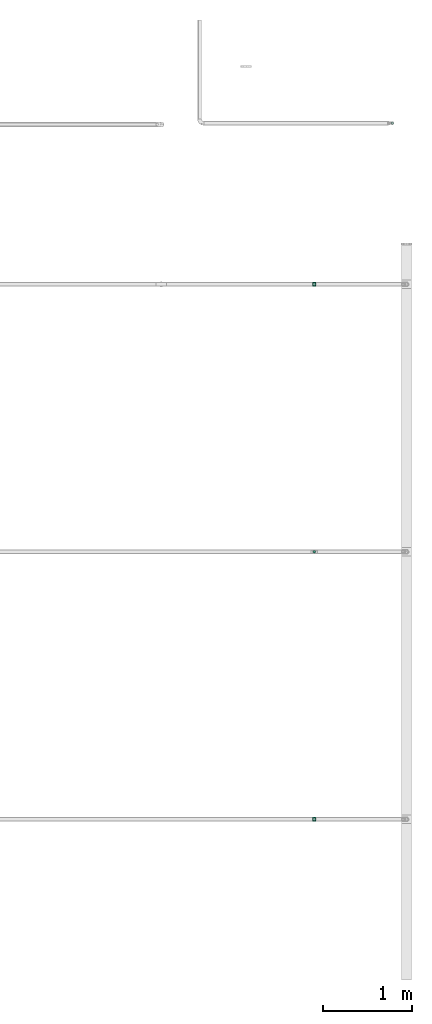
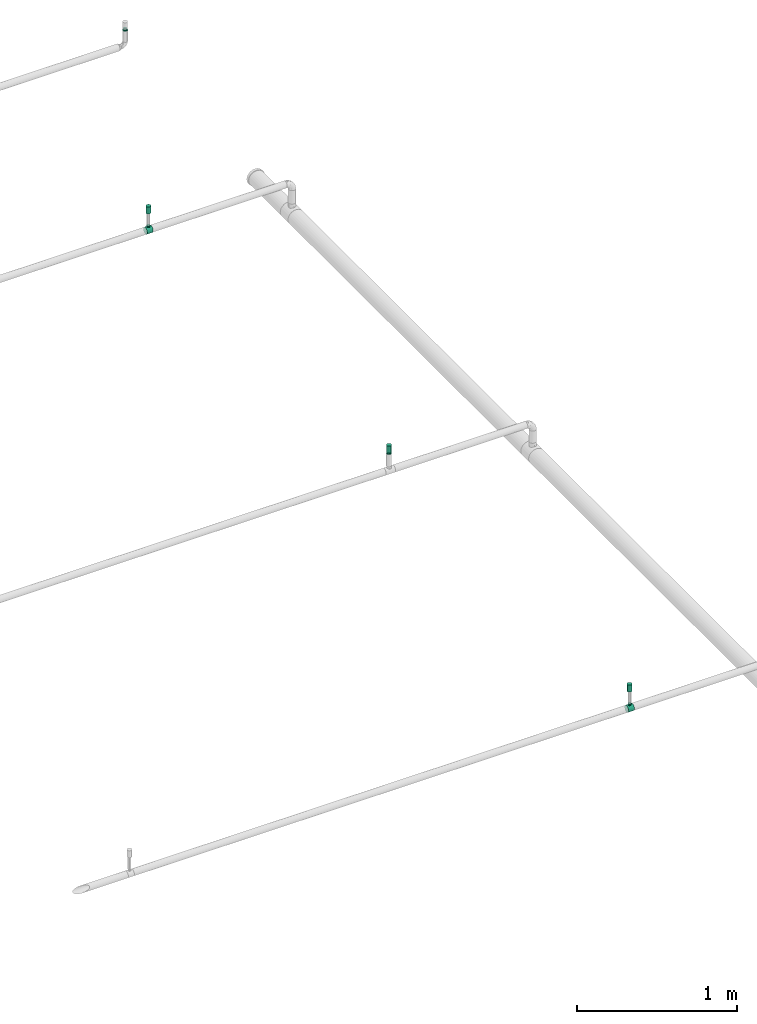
# One storey, part 11 of 14: 4 flow fittings, 3 flow terminals.
"""IFC2X3 building model written with IfcOpenShell, lengths in millimetres."""

from ifc_helpers import new_model, entity, si_unit, converted_unit, derived_unit, direction, frame, origin_with_axes, place, context, subcontext, project, spatial, open_shell, surface_model, source, transform, mapped, type_object, element, save


model = new_model("IFC2X3")

# Units and contexts
model_context = context("Model", 3, precision=0.01, world=frame((0.0, 4.29681676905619e-09, 0.0)), true_north=direction((4.01073788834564e-13, 1.0)))
plan_context = context("Plan", 3, precision=0.01, world=frame((0.0, 4.29681676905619e-09, 0.0)), true_north=direction((4.01073788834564e-13, 1.0)))
body_context = subcontext(model_context, "Body", "Model", "MODEL_VIEW")
ifc_project = project(units=[converted_unit("PLANEANGLEUNIT", "DEGREE", entity("IfcPositiveLengthMeasure", 0.0174532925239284), si_unit("PLANEANGLEUNIT", "RADIAN"), dimensions=[0, 0, 0, 0, 0, 0, 0]), si_unit("AREAUNIT", "SQUARE_METRE"), si_unit("LENGTHUNIT", "METRE", prefix="MILLI"), si_unit("MASSUNIT", "GRAM", prefix="KILO"), si_unit("POWERUNIT", "WATT"), si_unit("PRESSUREUNIT", "PASCAL"), si_unit("FORCEUNIT", "NEWTON", prefix="KILO"), si_unit("ELECTRICVOLTAGEUNIT", "VOLT"), si_unit("ELECTRICCURRENTUNIT", "AMPERE"), si_unit("THERMODYNAMICTEMPERATUREUNIT", "DEGREE_CELSIUS"), si_unit("TIMEUNIT", "SECOND"), si_unit("VOLUMEUNIT", "CUBIC_METRE"), derived_unit("LINEARVELOCITYUNIT", [(si_unit("LENGTHUNIT", "METRE"), 1), (si_unit("TIMEUNIT", "SECOND"), -1)]), derived_unit("VOLUMETRICFLOWRATEUNIT", [(si_unit("VOLUMEUNIT", "CUBIC_METRE"), 1), (si_unit("TIMEUNIT", "SECOND"), -1)]), derived_unit("THERMALTRANSMITTANCEUNIT", [(si_unit("POWERUNIT", "WATT"), 1), (si_unit("THERMODYNAMICTEMPERATUREUNIT", "KELVIN"), -1), (si_unit("AREAUNIT", "SQUARE_METRE"), -1)]), derived_unit("SOUNDPRESSUREUNIT", [(si_unit("PRESSUREUNIT", "PASCAL"), 1)])], contexts=[model_context, plan_context])

# Site, building, storey
site_placement = place(None, frame((0.0, -4.29681676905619e-09, 0.0), z_axis=(0.0, 0.0, 1.0), x_axis=(1.0, 0.0, 0.0)))
site = spatial("IfcSite", under=ifc_project, at=site_placement, CompositionType="ELEMENT")
building_placement = place(site_placement, frame((0.0, 4.29681676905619e-09, 0.0), z_axis=(0.0, 0.0, 1.0), x_axis=(1.0, 0.0, 0.0)))
building = spatial("IfcBuilding", under=site, at=building_placement, Name="mc-building", CompositionType="ELEMENT")
storey_placement = place(building_placement, frame((0.0, 0.0, 204000.0), z_axis=(0.0, 0.0, 1.0), x_axis=(1.0, 0.0, 0.0)))
storey = spatial("IfcBuildingStorey", under=building, at=storey_placement, Name="Nivå D", CompositionType="ELEMENT", Elevation=204000.0)

# Flow fittings
pipe_fitting_type_1 = type_object("IfcPipeFittingType", Name="magi_pipe_fe_reducer_centric_short_NOR", PredefinedType="TRANSITION")
shared_shape_1 = source(origin_with_axes(), body_context, "Body", "SurfaceModel", [
    surface_model("IfcShellBasedSurfaceModel", [(14.4, 4.37404, -16.32415), (14.4, 8.45, -14.63583), (14.4, 11.9501, -11.9501), (14.4, -8.45, -14.63583), (14.4, 16.32415, -4.37404), (14.4, 16.32415, 4.37404), (14.4, 14.63583, -8.45), (14.4, 0.0, -16.9), (14.4, -4.37404, -16.32415), (14.4, -11.9501, -11.9501), (14.4, -16.32415, -4.37404), (14.4, -14.63583, -8.45), (14.4, -16.32415, 4.37404), (14.4, 16.9, 0.0), (14.4, 14.63583, 8.45), (14.4, 11.9501, 11.9501), (14.4, 4.37404, 16.32415), (14.4, 8.45, 14.63583), (14.4, 0.0, 16.9), (14.4, -14.63583, 8.45), (14.4, -16.9, 0.0), (14.4, -8.45, 14.63583), (14.4, -11.9501, 11.9501), (14.4, -4.37404, 16.32415), (12.4, 4.37404, 16.32415), (12.4, -14.63583, 8.45), (12.4, 0.0, 16.9), (12.4, 16.32415, 4.37404), (12.4, 8.45, 14.63583), (12.4, 11.9501, 11.9501), (12.4, 14.63583, 8.45), (12.4, -8.45, 14.63583), (12.4, -11.9501, 11.9501), (12.4, -4.37404, 16.32415), (12.4, -16.32415, 4.37404), (12.4, -16.32415, -4.37404), (12.4, -16.9, 0.0), (12.4, -8.45, -14.63583), (12.4, 16.32415, -4.37404), (12.4, 11.9501, -11.9501), (12.4, 14.63583, -8.45), (12.4, 8.45, -14.63583), (12.4, 4.37404, -16.32415), (12.4, 0.0, -16.9), (12.4, -11.9501, -11.9501), (12.4, -14.63583, -8.45), (12.4, -4.37404, -16.32415), (12.4, 16.9, 0.0), (-2.0, 10.33541, 2.76936), (-2.0, 0.0, 10.7), (-2.0, 2.76936, 10.33541), (-2.0, 7.56604, 7.56604), (-2.0, 5.35, 9.26647), (-2.0, 9.26647, 5.35), (-2.0, -9.26647, 5.35), (-2.0, -2.76936, 10.33541), (-2.0, -7.56604, 7.56604), (-2.0, -5.35, 9.26647), (-2.0, -10.33541, 2.76936), (-2.0, -10.33541, -2.76936), (-2.0, -10.7, 0.0), (-2.0, 10.33541, -2.76936), (-2.0, 7.56604, -7.56604), (-2.0, 9.26647, -5.35), (-2.0, 5.35, -9.26647), (-2.0, -5.35, -9.26647), (-2.0, 2.76936, -10.33541), (-2.0, -7.56604, -7.56604), (-2.0, -9.26647, -5.35), (-2.0, 0.0, -10.7), (-2.0, -2.76936, -10.33541), (-2.0, 10.7, 0.0), (0.0, 5.35, -9.26647), (0.0, 0.0, -10.7), (0.0, 2.76936, -10.33541), (0.0, 10.33541, -2.76936), (0.0, 7.56604, -7.56604), (0.0, -5.35, -9.26647), (0.0, 9.26647, -5.35), (0.0, -9.26647, 5.35), (0.0, -2.76936, -10.33541), (0.0, -7.56604, -7.56604), (0.0, -10.33541, -2.76936), (0.0, -9.26647, -5.35), (0.0, 10.33541, 2.76936), (0.0, 10.7, 0.0), (0.0, 9.26647, 5.35), (0.0, 7.56604, 7.56604), (0.0, 2.76936, 10.33541), (0.0, 0.0, 10.7), (0.0, 5.35, 9.26647), (0.0, -10.33541, 2.76936), (0.0, -10.7, 0.0), (0.0, -7.56604, 7.56604), (0.0, -2.76936, 10.33541), (0.0, -5.35, 9.26647), (0.0, -9.3625, -2.31662), (12.4, -14.42505, -5.97505), (12.4, -15.66253, -2.98753), (0.0, 6.6875, -6.94985), (12.4, 8.96258, -13.18758), (0.0, -6.6875, -6.94985), (12.4, -8.96258, -13.18758), (0.0, 9.3625, -2.31662), (12.4, 15.66253, -2.98753), (12.4, 14.42505, -5.97505), (12.4, -5.97505, -14.42505), (12.4, 5.97505, -14.42505), (0.0, 2.675, -9.26647), (12.4, 13.18758, -8.96258), (0.0, -2.675, -9.26647), (12.4, -13.18758, -8.96258), (0.0, -8.025, -4.63324), (12.4, 2.98753, -15.66253), (0.0, 0.0, -9.26647), (12.4, -2.98753, -15.66253), (0.0, 8.025, -4.63324), (0.0, 9.3625, 2.31662), (12.4, 14.42505, 5.97505), (12.4, 15.66253, 2.98753), (0.0, -6.6875, 6.94985), (12.4, -8.96258, 13.18758), (0.0, 6.6875, 6.94985), (12.4, 8.96258, 13.18758), (0.0, -9.3625, 2.31662), (12.4, -15.66253, 2.98753), (12.4, -14.42505, 5.97505), (12.4, 5.97505, 14.42505), (12.4, -5.97505, 14.42505), (0.0, -2.675, 9.26647), (12.4, -13.18758, 8.96258), (0.0, 2.675, 9.26647), (12.4, 13.18758, 8.96258), (0.0, 8.025, 4.63324), (12.4, -2.98753, 15.66253), (0.0, 0.0, 9.26647), (12.4, 2.98753, 15.66253), (0.0, -8.025, 4.63324)], [open_shell([[[0, 1, 2]], [[3, 0, 2]], [[2, 4, 5]], [[4, 2, 6]], [[2, 5, 3]], [[7, 3, 8]], [[7, 0, 3]], [[9, 10, 11]], [[10, 9, 3]], [[3, 12, 10]], [[5, 4, 13]], [[5, 14, 15]], [[5, 15, 16]], [[16, 12, 3]], [[16, 15, 17]], [[12, 16, 18]], [[18, 19, 12]], [[20, 10, 12]], [[19, 21, 22]], [[19, 18, 21]], [[21, 18, 23]], [[3, 5, 16]], [[24, 25, 26]], [[27, 24, 28]], [[29, 30, 27]], [[29, 27, 28]], [[25, 24, 27]], [[31, 25, 32]], [[31, 33, 26]], [[26, 25, 31]], [[34, 25, 27]], [[34, 35, 36]], [[34, 27, 37]], [[27, 38, 39]], [[39, 38, 40]], [[39, 41, 42]], [[37, 27, 39]], [[42, 43, 39]], [[35, 44, 45]], [[44, 35, 37]], [[37, 43, 46]], [[35, 34, 37]], [[39, 43, 37]], [[38, 27, 47]], [[35, 10, 36]], [[45, 11, 35]], [[3, 44, 37]], [[45, 44, 9]], [[8, 37, 46]], [[35, 11, 10]], [[10, 20, 36]], [[8, 3, 37]], [[9, 44, 3]], [[9, 11, 45]], [[7, 8, 46]], [[46, 43, 7]], [[42, 0, 43]], [[41, 1, 42]], [[6, 39, 40]], [[41, 39, 2]], [[4, 40, 38]], [[41, 2, 1]], [[1, 0, 42]], [[13, 4, 38]], [[6, 40, 4]], [[6, 2, 39]], [[47, 13, 38]], [[43, 0, 7]], [[27, 5, 47]], [[30, 14, 27]], [[17, 29, 28]], [[30, 29, 15]], [[16, 28, 24]], [[27, 14, 5]], [[5, 13, 47]], [[16, 17, 28]], [[15, 29, 17]], [[15, 14, 30]], [[18, 16, 24]], [[24, 26, 18]], [[33, 23, 26]], [[31, 21, 33]], [[19, 32, 25]], [[31, 32, 22]], [[12, 25, 34]], [[31, 22, 21]], [[21, 23, 33]], [[20, 12, 34]], [[19, 25, 12]], [[19, 22, 32]], [[36, 20, 34]], [[26, 23, 18]], [[48, 49, 50]], [[51, 50, 52]], [[51, 53, 48]], [[51, 48, 50]], [[49, 48, 54]], [[55, 56, 57]], [[56, 55, 54]], [[58, 59, 60]], [[54, 55, 49]], [[58, 54, 59]], [[54, 48, 61]], [[59, 54, 61]], [[62, 61, 63]], [[59, 62, 64]], [[61, 62, 59]], [[65, 64, 66]], [[59, 67, 68]], [[67, 59, 65]], [[65, 69, 70]], [[65, 59, 64]], [[66, 69, 65]], [[61, 48, 71]], [[72, 73, 74]], [[75, 72, 76]], [[77, 72, 75]], [[75, 76, 78]], [[79, 77, 75]], [[73, 77, 80]], [[73, 72, 77]], [[81, 82, 83]], [[82, 81, 77]], [[77, 79, 82]], [[84, 75, 85]], [[84, 86, 87]], [[75, 87, 79]], [[88, 89, 87]], [[88, 87, 90]], [[79, 87, 89]], [[82, 91, 92]], [[79, 91, 82]], [[93, 94, 95]], [[94, 93, 79]], [[89, 94, 79]], [[75, 84, 87]], [[59, 82, 60]], [[68, 83, 59]], [[77, 67, 65]], [[68, 67, 81]], [[80, 65, 70]], [[59, 83, 82]], [[82, 92, 60]], [[80, 77, 65]], [[81, 67, 77]], [[81, 83, 68]], [[73, 80, 70]], [[70, 69, 73]], [[66, 74, 69]], [[64, 72, 66]], [[78, 62, 63]], [[64, 62, 76]], [[75, 63, 61]], [[64, 76, 72]], [[72, 74, 66]], [[85, 75, 61]], [[78, 63, 75]], [[78, 76, 62]], [[71, 85, 61]], [[69, 74, 73]], [[48, 84, 71]], [[53, 86, 48]], [[90, 51, 52]], [[53, 51, 87]], [[88, 52, 50]], [[48, 86, 84]], [[84, 85, 71]], [[88, 90, 52]], [[87, 51, 90]], [[87, 86, 53]], [[89, 88, 50]], [[50, 49, 89]], [[55, 94, 49]], [[57, 95, 55]], [[79, 56, 54]], [[57, 56, 93]], [[91, 54, 58]], [[57, 93, 95]], [[95, 94, 55]], [[92, 91, 58]], [[79, 54, 91]], [[79, 93, 56]], [[60, 92, 58]], [[49, 94, 89]], [[29, 26, 39]], [[39, 47, 29]], [[36, 26, 32]], [[36, 44, 43]], [[43, 39, 36]], [[36, 39, 26]], [[92, 95, 77]], [[85, 95, 90]], [[85, 72, 77]], [[85, 77, 95]], [[96, 97, 98]], [[92, 96, 98]], [[99, 100, 72]], [[98, 36, 92]], [[44, 101, 102]], [[101, 77, 102]], [[103, 104, 105]], [[85, 47, 104]], [[77, 106, 102]], [[107, 108, 72]], [[109, 39, 99]], [[106, 77, 110]], [[101, 111, 112]], [[113, 114, 108]], [[100, 99, 39]], [[110, 115, 106]], [[99, 116, 109]], [[100, 107, 72]], [[96, 112, 97]], [[105, 116, 103]], [[85, 104, 103]], [[108, 107, 113]], [[113, 43, 114]], [[116, 105, 109]], [[114, 115, 110]], [[43, 115, 114]], [[111, 101, 44]], [[111, 97, 112]], [[117, 118, 119]], [[85, 117, 119]], [[120, 121, 95]], [[119, 47, 85]], [[29, 122, 123]], [[122, 90, 123]], [[124, 125, 126]], [[92, 36, 125]], [[90, 127, 123]], [[128, 129, 95]], [[130, 32, 120]], [[127, 90, 131]], [[122, 132, 133]], [[134, 135, 129]], [[121, 120, 32]], [[131, 136, 127]], [[120, 137, 130]], [[121, 128, 95]], [[117, 133, 118]], [[126, 137, 124]], [[92, 125, 124]], [[129, 128, 134]], [[134, 26, 135]], [[137, 126, 130]], [[135, 136, 131]], [[26, 136, 135]], [[132, 122, 29]], [[132, 118, 133]]])]),
])
for number, where, z_axis, x_axis, name in (
    (1, (609075.72773, 698608.7481, 6273.04800000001), (0.0, 1.0, 0.0), (0.0, 0.0, -1.0), "magi_pipe_fe_reducer_centric_short_NOR"),
    (2, (608200.0, 693802.46783, 6273.04800000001), (0.0, 1.0, 0.0), (0.0, 0.0, -1.0), "magi_pipe_fe_reducer_centric_short_NOR"),
):
    element("IfcFlowFitting", number, at=place(storey_placement, frame(where, z_axis=z_axis, x_axis=x_axis)), inside=storey, type_object=pipe_fitting_type_1, Name=name, context=body_context, shape_type="MappedRepresentation", body=[
        mapped(shared_shape_1, transform((0.0, 0.0, 0.0), scale=1.0)),
    ])
pipe_fitting_type_2 = type_object("IfcPipeFittingType", Name="magi_pipe_fe_tee_centric_90_NOR", PredefinedType="JUNCTION")
shared_shape_2 = source(origin_with_axes(), body_context, "Body", "SurfaceModel", [
    surface_model("IfcShellBasedSurfaceModel", [(-21.4, 0.0, -24.2), (-21.4, -6.26342, -23.37541), (-21.4, 6.26342, -23.37541), (-21.4, 12.1, -20.95781), (-21.4, 20.95781, -12.1), (-21.4, -24.2, 0.0), (-21.4, 17.11198, -17.11198), (-21.4, -23.37541, 6.26342), (-21.4, -12.1, -20.95781), (-21.4, -17.11198, -17.11198), (-21.4, -23.37541, -6.26342), (-21.4, -20.95781, -12.1), (-21.4, 23.37541, -6.26342), (-21.4, 20.95781, 12.1), (-21.4, 23.37541, 6.26342), (-21.4, 24.2, 0.0), (-21.4, 12.1, 20.95781), (-21.4, -17.11198, 17.11198), (-21.4, 17.11198, 17.11198), (-21.4, 6.26342, 23.37541), (-21.4, -20.95781, 12.1), (-21.4, -6.26342, 23.37541), (-21.4, 0.0, 24.2), (-21.4, -12.1, 20.95781), (21.4, 6.26342, -23.37541), (21.4, -6.26342, -23.37541), (21.4, 0.0, -24.2), (21.4, 17.11198, -17.11198), (21.4, 12.1, -20.95781), (21.4, -23.37541, -6.26342), (21.4, 20.95781, -12.1), (21.4, 23.37541, -6.26342), (21.4, -17.11198, -17.11198), (21.4, -12.1, -20.95781), (21.4, -20.95781, -12.1), (21.4, -24.2, 0.0), (21.4, 24.2, 0.0), (21.4, 23.37541, 6.26342), (21.4, 20.95781, 12.1), (21.4, -23.37541, 6.26342), (21.4, -17.11198, 17.11198), (21.4, 12.1, 20.95781), (21.4, 17.11198, 17.11198), (21.4, 6.26342, 23.37541), (21.4, -20.95781, 12.1), (21.4, -12.1, 20.95781), (21.4, 0.0, 24.2), (21.4, -6.26342, 23.37541), (21.4, -23.7877, 3.13171), (10.04208, -23.91638, 3.69412), (10.7, -24.2, 0.0), (8.18481, -23.19787, 6.89194), (1.87869, -21.78714, 10.53378), (21.4, -22.16661, 9.18171), (5.37451, -22.36147, 9.25228), (-5.37543, -22.36169, 9.25174), (-21.4, -22.16661, 9.18171), (-10.04239, -23.91651, 3.69329), (-21.4, -23.7877, 3.13171), (-10.7, -24.2, 0.0), (-8.18762, -23.19886, 6.8886), (-1.88166, -21.7874, 10.53325), (1.87869, -21.78714, -10.53378), (-21.4, -23.7877, -3.13171), (-10.04239, -23.91651, -3.69329), (5.37451, -22.36147, -9.25228), (8.18481, -23.19787, -6.89194), (21.4, -22.16661, -9.18171), (21.4, -23.7877, -3.13171), (10.04208, -23.91638, -3.69412), (-1.88166, -21.7874, -10.53325), (-5.37543, -22.36169, -9.25174), (-8.18762, -23.19886, -6.8886), (-21.4, -22.16661, -9.18171), (0.0, -36.3, -10.7), (2.76936, -36.3, -10.33541), (5.35, -36.3, -9.26647), (7.56604, -36.3, -7.56604), (10.33541, -36.3, 2.76936), (9.26647, -36.3, -5.35), (-7.56604, -36.3, -7.56604), (2.76936, -36.3, 10.33541), (-10.7, -36.3, 0.0), (-5.35, -36.3, -9.26647), (-2.76936, -36.3, -10.33541), (-9.26647, -36.3, -5.35), (-10.33541, -36.3, -2.76936), (10.7, -36.3, 0.0), (10.33541, -36.3, -2.76936), (9.26647, -36.3, 5.35), (5.35, -36.3, 9.26647), (7.56604, -36.3, 7.56604), (0.0, -36.3, 10.7), (-10.33541, -36.3, 2.76936), (-7.56604, -36.3, 7.56604), (-9.26647, -36.3, 5.35), (-2.76936, -36.3, 10.33541), (-5.35, -36.3, 9.26647)], [open_shell([[[0, 1, 2]], [[3, 2, 4]], [[4, 2, 5]], [[6, 3, 4]], [[4, 5, 7]], [[8, 9, 1]], [[10, 1, 9]], [[11, 10, 9]], [[5, 1, 10]], [[5, 2, 1]], [[7, 12, 4]], [[13, 14, 15]], [[13, 15, 7]], [[16, 13, 17]], [[18, 13, 16]], [[19, 16, 17]], [[20, 17, 7]], [[17, 13, 7]], [[21, 22, 23]], [[17, 23, 22]], [[17, 22, 19]], [[12, 7, 15]], [[24, 25, 26]], [[27, 24, 28]], [[29, 24, 30]], [[30, 24, 27]], [[29, 30, 31]], [[25, 32, 33]], [[32, 25, 34]], [[24, 34, 25]], [[24, 29, 34]], [[31, 35, 29]], [[31, 36, 35]], [[36, 37, 38]], [[39, 36, 38]], [[40, 38, 41]], [[41, 38, 42]], [[40, 41, 43]], [[39, 40, 44]], [[39, 38, 40]], [[45, 46, 47]], [[46, 45, 40]], [[43, 46, 40]], [[36, 39, 35]], [[48, 39, 49]], [[50, 35, 48]], [[39, 51, 49]], [[44, 40, 52]], [[50, 48, 49]], [[39, 53, 51]], [[52, 54, 44]], [[40, 17, 52]], [[54, 53, 44]], [[55, 20, 56]], [[57, 58, 59]], [[5, 59, 58]], [[57, 60, 7]], [[55, 61, 20]], [[51, 53, 54]], [[7, 60, 56]], [[20, 61, 17]], [[56, 60, 55]], [[61, 52, 17]], [[57, 7, 58]], [[40, 23, 17]], [[22, 47, 46]], [[21, 45, 47]], [[19, 46, 43]], [[38, 37, 14]], [[18, 41, 42]], [[13, 42, 38]], [[43, 41, 16]], [[15, 37, 36]], [[23, 45, 21]], [[21, 47, 22]], [[19, 22, 46]], [[43, 16, 19]], [[16, 41, 18]], [[13, 18, 42]], [[14, 13, 38]], [[37, 15, 14]], [[45, 23, 40]], [[4, 31, 30]], [[12, 36, 31]], [[6, 30, 27]], [[26, 25, 1]], [[2, 28, 24]], [[0, 24, 26]], [[27, 28, 3]], [[8, 25, 33]], [[15, 36, 12]], [[12, 31, 4]], [[6, 4, 30]], [[27, 3, 6]], [[3, 28, 2]], [[0, 2, 24]], [[1, 0, 26]], [[25, 8, 1]], [[33, 9, 8]], [[32, 34, 62]], [[59, 63, 64]], [[65, 62, 34]], [[29, 66, 67]], [[32, 62, 9]], [[35, 50, 68]], [[69, 66, 29]], [[69, 68, 50]], [[65, 34, 67]], [[66, 65, 67]], [[70, 71, 11]], [[72, 73, 71]], [[11, 9, 70]], [[71, 73, 11]], [[70, 9, 62]], [[72, 64, 10]], [[69, 29, 68]], [[64, 63, 10]], [[63, 59, 5]], [[10, 73, 72]], [[32, 9, 33]], [[74, 75, 76]], [[74, 76, 77]], [[78, 77, 79]], [[74, 77, 80]], [[81, 82, 77]], [[74, 83, 84]], [[74, 80, 83]], [[85, 82, 86]], [[82, 85, 80]], [[77, 82, 80]], [[87, 79, 88]], [[77, 78, 81]], [[81, 78, 89]], [[90, 81, 89]], [[90, 89, 91]], [[92, 82, 81]], [[93, 94, 95]], [[94, 93, 92]], [[94, 96, 97]], [[96, 94, 92]], [[82, 92, 93]], [[79, 87, 78]], [[59, 82, 93]], [[57, 95, 94]], [[93, 95, 59]], [[94, 97, 57]], [[59, 95, 57]], [[57, 97, 60]], [[61, 55, 54]], [[60, 92, 55]], [[96, 92, 60]], [[96, 60, 97]], [[81, 51, 92]], [[90, 51, 81]], [[49, 91, 89]], [[90, 91, 49]], [[50, 89, 78]], [[92, 51, 54]], [[52, 61, 54]], [[89, 50, 49]], [[49, 51, 90]], [[78, 87, 50]], [[54, 55, 92]], [[50, 87, 88]], [[69, 79, 77]], [[88, 79, 50]], [[69, 77, 76]], [[50, 79, 69]], [[69, 76, 66]], [[62, 65, 70]], [[66, 74, 65]], [[75, 74, 66]], [[75, 66, 76]], [[72, 74, 84]], [[83, 72, 84]], [[64, 80, 85]], [[83, 80, 64]], [[59, 85, 86]], [[74, 72, 71]], [[70, 65, 71]], [[85, 59, 64]], [[64, 72, 83]], [[86, 82, 59]], [[71, 65, 74]]])]),
])
for number, where, z_axis, x_axis, name in (
    (3, (608200.0, 696802.46783, 6140.0), (0.0, -1.0, 0.0), (-1.0, 0.0, 0.0), "magi_pipe_fe_tee_centric_90_NOR"),
    (4, (608200.0, 690802.46783, 6140.0), (0.0, -1.0, 0.0), (-1.0, 0.0, 0.0), "magi_pipe_fe_tee_centric_90_NOR"),
):
    element("IfcFlowFitting", number, at=place(storey_placement, frame(where, z_axis=z_axis, x_axis=x_axis)), inside=storey, type_object=pipe_fitting_type_2, Name=name, context=body_context, shape_type="MappedRepresentation", body=[
        mapped(shared_shape_2, transform((0.0, 0.0, 0.0), scale=1.0)),
    ])

# Flow terminals
fire_suppression_terminal_type = type_object("IfcFireSuppressionTerminalType", Name="SP-15-K80-68DGR-STD-STÅENDE", PredefinedType="NOTDEFINED")
shared_shape_3 = source(origin_with_axes(), body_context, "Body", "SurfaceModel", [
    surface_model("IfcShellBasedSurfaceModel", [(4.1411, -15.45481, 53.0), (8.0, -13.85641, 53.0), (11.31371, -11.31371, 53.0), (-8.0, -13.85641, 53.0), (15.45481, -4.1411, 53.0), (16.0, 0.0, 53.0), (13.85641, -8.0, 53.0), (0.0, -16.0, 53.0), (-4.1411, -15.45481, 53.0), (-13.85641, -8.0, 53.0), (-11.31371, -11.31371, 53.0), (-15.45481, -4.1411, 53.0), (15.45481, 4.1411, 53.0), (13.85641, 8.0, 53.0), (11.31371, 11.31371, 53.0), (-4.1411, 15.45481, 53.0), (8.0, 13.85641, 53.0), (4.1411, 15.45481, 53.0), (0.0, 16.0, 53.0), (-13.85641, 8.0, 53.0), (-15.45481, 4.1411, 53.0), (-16.0, 0.0, 53.0), (-11.31371, 11.31371, 53.0), (-8.0, 13.85641, 53.0), (0.0, 16.0, 0.0), (4.1411, 15.45481, 0.0), (8.0, 13.85641, 0.0), (-4.1411, 15.45481, 0.0), (11.31371, 11.31371, 0.0), (13.85641, 8.0, 0.0), (15.45481, 4.1411, 0.0), (-15.45481, -4.1411, 0.0), (-11.31371, 11.31371, 0.0), (-8.0, 13.85641, 0.0), (-13.85641, 8.0, 0.0), (-15.45481, 4.1411, 0.0), (-16.0, 0.0, 0.0), (4.1411, -15.45481, 0.0), (16.0, 0.0, 0.0), (15.45481, -4.1411, 0.0), (13.85641, -8.0, 0.0), (11.31371, -11.31371, 0.0), (8.0, -13.85641, 0.0), (-8.0, -13.85641, 0.0), (-13.85641, -8.0, 0.0), (-11.31371, -11.31371, 0.0), (0.0, -16.0, 0.0), (-4.1411, -15.45481, 0.0)], [open_shell([[[0, 1, 2]], [[3, 0, 2]], [[4, 5, 2]], [[4, 2, 6]], [[3, 2, 5]], [[7, 3, 8]], [[7, 0, 3]], [[3, 9, 10]], [[9, 3, 11]], [[5, 11, 3]], [[5, 12, 11]], [[12, 13, 14]], [[15, 12, 14]], [[16, 17, 18]], [[14, 16, 15]], [[18, 15, 16]], [[11, 19, 20]], [[21, 11, 20]], [[22, 15, 23]], [[15, 22, 19]], [[19, 11, 15]], [[11, 12, 15]], [[24, 25, 26]], [[27, 24, 26]], [[28, 29, 30]], [[27, 26, 28]], [[27, 28, 31]], [[27, 32, 33]], [[32, 27, 34]], [[34, 31, 35]], [[31, 34, 27]], [[35, 31, 36]], [[28, 30, 31]], [[37, 38, 39]], [[37, 39, 40]], [[41, 42, 37]], [[41, 37, 40]], [[38, 37, 43]], [[44, 43, 45]], [[43, 44, 31]], [[43, 46, 47]], [[43, 31, 38]], [[37, 46, 43]], [[38, 31, 30]], [[11, 31, 44]], [[45, 9, 44]], [[3, 43, 47]], [[45, 43, 10]], [[8, 47, 46]], [[31, 21, 36]], [[31, 11, 21]], [[44, 9, 11]], [[45, 10, 9]], [[3, 10, 43]], [[47, 8, 3]], [[46, 7, 8]], [[0, 37, 42]], [[41, 1, 42]], [[6, 40, 39]], [[41, 40, 2]], [[4, 39, 38]], [[37, 0, 7]], [[42, 1, 0]], [[41, 2, 1]], [[40, 6, 2]], [[4, 6, 39]], [[38, 5, 4]], [[37, 7, 46]], [[12, 38, 30]], [[13, 30, 29]], [[16, 26, 25]], [[17, 25, 24]], [[30, 13, 12]], [[12, 5, 38]], [[28, 14, 13]], [[28, 26, 14]], [[14, 26, 16]], [[25, 17, 16]], [[28, 13, 29]], [[24, 18, 17]], [[15, 27, 33]], [[32, 23, 33]], [[19, 34, 35]], [[32, 34, 22]], [[20, 35, 36]], [[27, 15, 18]], [[33, 23, 15]], [[32, 22, 23]], [[34, 19, 22]], [[20, 19, 35]], [[36, 21, 20]], [[27, 18, 24]]])]),
])
for number, where, z_axis, x_axis in (
    (5, (608200.0, 696802.46783, 6270.0), (0.0, 0.0, 1.0), (1.0, 0.0, 0.0)),
    (6, (608200.0, 693802.46783, 6270.0), (0.0, 0.0, 1.0), (1.0, 0.0, 0.0)),
    (7, (608200.0, 690802.46783, 6270.0), (0.0, 0.0, 1.0), (1.0, 0.0, 0.0)),
):
    element("IfcFlowTerminal", number, at=place(storey_placement, frame(where, z_axis=z_axis, x_axis=x_axis)), inside=storey, type_object=fire_suppression_terminal_type, Name="SP-15-K80-68DGR-STD-STÅENDE", context=body_context, shape_type="MappedRepresentation", body=[
        mapped(shared_shape_3, transform((0.0, 0.0, 0.0), scale=1.0)),
    ])

save(model, "model.ifc")
